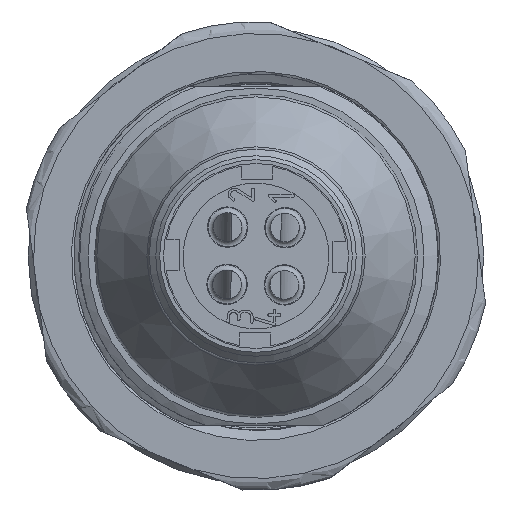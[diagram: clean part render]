
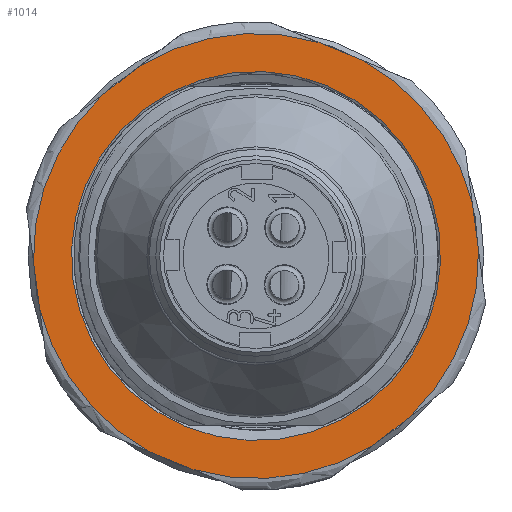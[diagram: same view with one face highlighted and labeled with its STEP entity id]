
A CAD part, left-side view. The second image highlights one B-rep face of the part: STEP entity #1014.
In plain terms, the highlighted planar face has unit normal (-1, 0, 0).
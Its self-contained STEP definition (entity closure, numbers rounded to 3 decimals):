
#1014=ADVANCED_FACE('',(#2184,#2185),#1382,.T.);
#1382=PLANE('',#6311);
#1483=LINE('',#8036,#1825);
#1484=LINE('',#8041,#1826);
#1485=LINE('',#8045,#1827);
#1486=LINE('',#8049,#1828);
#1487=LINE('',#8053,#1829);
#1488=LINE('',#8057,#1830);
#1825=VECTOR('',#6765,1.);
#1826=VECTOR('',#6768,1.);
#1827=VECTOR('',#6771,1.);
#1828=VECTOR('',#6774,1.);
#1829=VECTOR('',#6777,1.);
#1830=VECTOR('',#6780,1.);
#2184=FACE_BOUND('',#2328,.T.);
#2185=FACE_BOUND('',#2329,.T.);
#2328=EDGE_LOOP('',(#2773));
#2329=EDGE_LOOP('',(#2774,#2775,#2776,#2777,#2778,#2779,#2780,#2781,#2782,
#2783,#2784,#2785));
#2773=ORIENTED_EDGE('',*,*,#5202,.T.);
#2774=ORIENTED_EDGE('',*,*,#5203,.T.);
#2775=ORIENTED_EDGE('',*,*,#5204,.T.);
#2776=ORIENTED_EDGE('',*,*,#5205,.T.);
#2777=ORIENTED_EDGE('',*,*,#5206,.T.);
#2778=ORIENTED_EDGE('',*,*,#5207,.T.);
#2779=ORIENTED_EDGE('',*,*,#5208,.T.);
#2780=ORIENTED_EDGE('',*,*,#5209,.T.);
#2781=ORIENTED_EDGE('',*,*,#5210,.T.);
#2782=ORIENTED_EDGE('',*,*,#5211,.T.);
#2783=ORIENTED_EDGE('',*,*,#5212,.T.);
#2784=ORIENTED_EDGE('',*,*,#5213,.T.);
#2785=ORIENTED_EDGE('',*,*,#5214,.T.);
#4585=VERTEX_POINT('',#8035);
#4586=VERTEX_POINT('',#8037);
#4587=VERTEX_POINT('',#8038);
#4588=VERTEX_POINT('',#8040);
#4589=VERTEX_POINT('',#8042);
#4590=VERTEX_POINT('',#8044);
#4591=VERTEX_POINT('',#8046);
#4592=VERTEX_POINT('',#8048);
#4593=VERTEX_POINT('',#8050);
#4594=VERTEX_POINT('',#8052);
#4595=VERTEX_POINT('',#8054);
#4596=VERTEX_POINT('',#8056);
#4597=VERTEX_POINT('',#8058);
#5202=EDGE_CURVE('',#4585,#4585,#6108,.T.);
#5203=EDGE_CURVE('',#4586,#4587,#1483,.T.);
#5204=EDGE_CURVE('',#4587,#4588,#6109,.T.);
#5205=EDGE_CURVE('',#4588,#4589,#1484,.T.);
#5206=EDGE_CURVE('',#4589,#4590,#6110,.T.);
#5207=EDGE_CURVE('',#4590,#4591,#1485,.T.);
#5208=EDGE_CURVE('',#4591,#4592,#6111,.T.);
#5209=EDGE_CURVE('',#4592,#4593,#1486,.T.);
#5210=EDGE_CURVE('',#4593,#4594,#6112,.T.);
#5211=EDGE_CURVE('',#4594,#4595,#1487,.T.);
#5212=EDGE_CURVE('',#4595,#4596,#6113,.T.);
#5213=EDGE_CURVE('',#4596,#4597,#1488,.T.);
#5214=EDGE_CURVE('',#4597,#4586,#6114,.T.);
#6108=CIRCLE('',#6304,7.087);
#6109=CIRCLE('',#6305,8.547);
#6110=CIRCLE('',#6306,8.547);
#6111=CIRCLE('',#6307,8.547);
#6112=CIRCLE('',#6308,8.547);
#6113=CIRCLE('',#6309,8.547);
#6114=CIRCLE('',#6310,8.547);
#6304=AXIS2_PLACEMENT_3D('',#8034,#6763,#6764);
#6305=AXIS2_PLACEMENT_3D('',#8039,#6766,#6767);
#6306=AXIS2_PLACEMENT_3D('',#8043,#6769,#6770);
#6307=AXIS2_PLACEMENT_3D('',#8047,#6772,#6773);
#6308=AXIS2_PLACEMENT_3D('',#8051,#6775,#6776);
#6309=AXIS2_PLACEMENT_3D('',#8055,#6778,#6779);
#6310=AXIS2_PLACEMENT_3D('',#8059,#6781,#6782);
#6311=AXIS2_PLACEMENT_3D('',#8060,#6783,#6784);
#6763=DIRECTION('',(1.,0.,0.));
#6764=DIRECTION('',(0.,0.924,0.382));
#6765=DIRECTION('',(0.,-0.131,-0.991));
#6766=DIRECTION('',(-1.,0.,0.));
#6767=DIRECTION('',(0.,0.924,0.382));
#6768=DIRECTION('',(0.,-0.924,-0.382));
#6769=DIRECTION('',(-1.,0.,0.));
#6770=DIRECTION('',(0.,0.924,0.382));
#6771=DIRECTION('',(0.,-0.793,0.609));
#6772=DIRECTION('',(-1.,0.,0.));
#6773=DIRECTION('',(0.,0.924,0.382));
#6774=DIRECTION('',(0.,0.131,0.991));
#6775=DIRECTION('',(-1.,0.,0.));
#6776=DIRECTION('',(0.,0.924,0.382));
#6777=DIRECTION('',(0.,0.924,0.382));
#6778=DIRECTION('',(-1.,0.,0.));
#6779=DIRECTION('',(0.,0.924,0.382));
#6780=DIRECTION('',(0.,0.793,-0.609));
#6781=DIRECTION('',(-1.,0.,0.));
#6782=DIRECTION('',(0.,0.924,0.382));
#6783=DIRECTION('',(-1.,0.,0.));
#6784=DIRECTION('',(0.,0.924,0.382));
#8034=CARTESIAN_POINT('',(2.083,-0.882,5.676));
#8035=CARTESIAN_POINT('',(2.083,5.668,8.382));
#8036=CARTESIAN_POINT('',(2.083,7.933,7.491));
#8037=CARTESIAN_POINT('',(2.083,7.662,5.445));
#8038=CARTESIAN_POINT('',(2.083,7.427,3.672));
#8039=CARTESIAN_POINT('',(2.083,-0.882,5.676));
#8040=CARTESIAN_POINT('',(2.083,3.19,-1.838));
#8041=CARTESIAN_POINT('',(2.083,5.098,-1.05));
#8042=CARTESIAN_POINT('',(2.083,1.537,-2.521));
#8043=CARTESIAN_POINT('',(2.083,-0.882,5.676));
#8044=CARTESIAN_POINT('',(2.083,-5.354,-1.608));
#8045=CARTESIAN_POINT('',(2.083,-3.717,-2.866));
#8046=CARTESIAN_POINT('',(2.083,-6.771,-0.518));
#8047=CARTESIAN_POINT('',(2.083,-0.882,5.676));
#8048=CARTESIAN_POINT('',(2.083,-9.426,5.907));
#8049=CARTESIAN_POINT('',(2.083,-9.697,3.861));
#8050=CARTESIAN_POINT('',(2.083,-9.191,7.68));
#8051=CARTESIAN_POINT('',(2.083,-0.882,5.676));
#8052=CARTESIAN_POINT('',(2.083,-4.954,13.19));
#8053=CARTESIAN_POINT('',(2.083,-6.862,12.402));
#8054=CARTESIAN_POINT('',(2.083,-3.301,13.873));
#8055=CARTESIAN_POINT('',(2.083,-0.882,5.676));
#8056=CARTESIAN_POINT('',(2.083,3.59,12.96));
#8057=CARTESIAN_POINT('',(2.083,1.953,14.218));
#8058=CARTESIAN_POINT('',(2.083,5.008,11.87));
#8059=CARTESIAN_POINT('',(2.083,-0.882,5.676));
#8060=CARTESIAN_POINT('',(2.083,-0.882,5.676));
